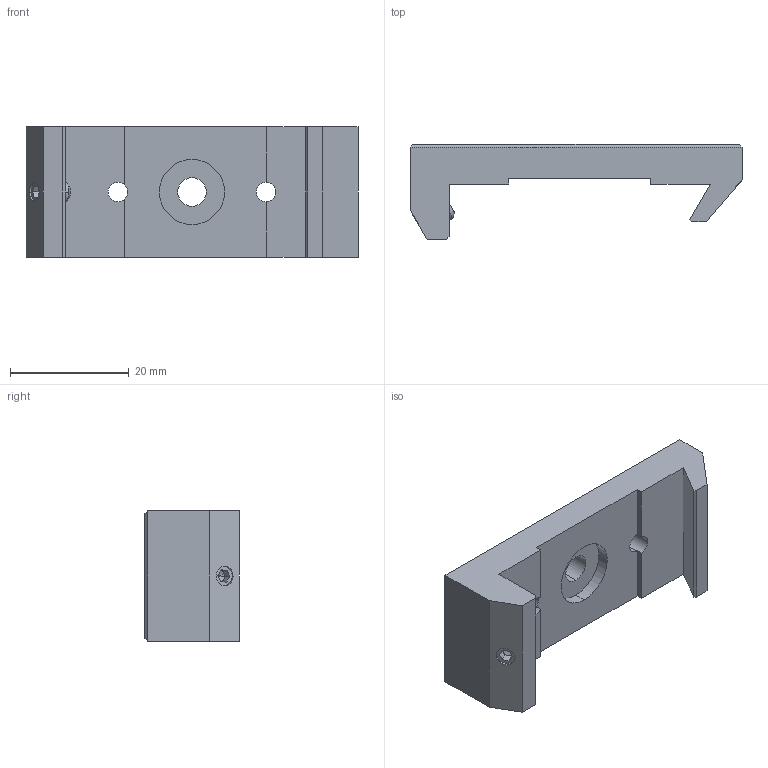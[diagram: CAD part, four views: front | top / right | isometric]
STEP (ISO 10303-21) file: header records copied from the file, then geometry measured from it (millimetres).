
FILE_DESCRIPTION (( 'STEP AP203' ), '1' );
FILE_NAME ('RACA-M1.step', '2019-05-09T09:10:38', ( '' ), ( '' ), 'SwSTEP 2.0', 'SolidWorks 2016', '' );
FILE_SCHEMA (( 'CONFIG_CONTROL_DESIGN' ));
Length unit declared in the file: millimetre
Products named in the file (1): RACA-M1
Bounding box: 56 x 16 x 22 mm (x, y, z)
Surface area: 4583.9 mm2 (no closed solid volume)
Topology: 0 solids, 2 shells, 56 faces, 148 edges, 93 vertices
Faces by surface type: plane 38, cylinder 12, cone 6
Entity records: 1792 total; most frequent: CARTESIAN_POINT 302, DIRECTION 296, ORIENTED_EDGE 288, EDGE_CURVE 146, VECTOR 106, LINE 106, AXIS2_PLACEMENT_3D 95, VERTEX_POINT 93
